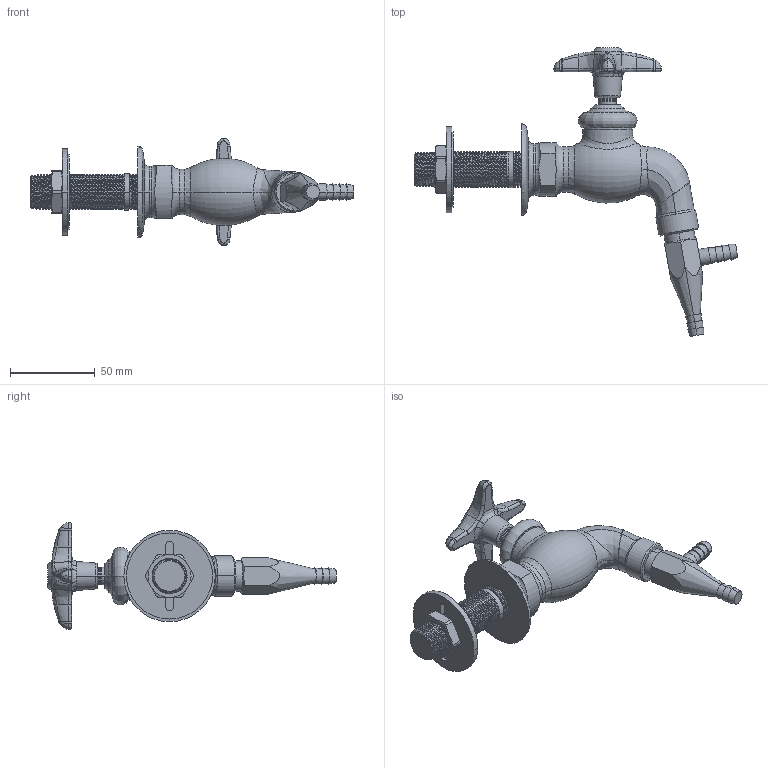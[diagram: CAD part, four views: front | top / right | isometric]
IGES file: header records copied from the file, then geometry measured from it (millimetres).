
Start section:  PTC IGES file: LWV4-C34.igs
Global section: file name: LWV4-C34.igs; native system: Creo Parametric by PTC Inc.; preprocessor: 2014500; author: usch_engrender; organization: Unknown; date: 20150915.132311; units: inch
Bounding box: 191.19 x 170.57 x 63.42 mm (x, y, z)
Volume: 161660.3 mm3; surface area: 36792.4 mm2
Topology: 1 solids, 3 shells, 425 faces, 1022 edges, 619 vertices
Faces by surface type: bspline 243, revolution 182
